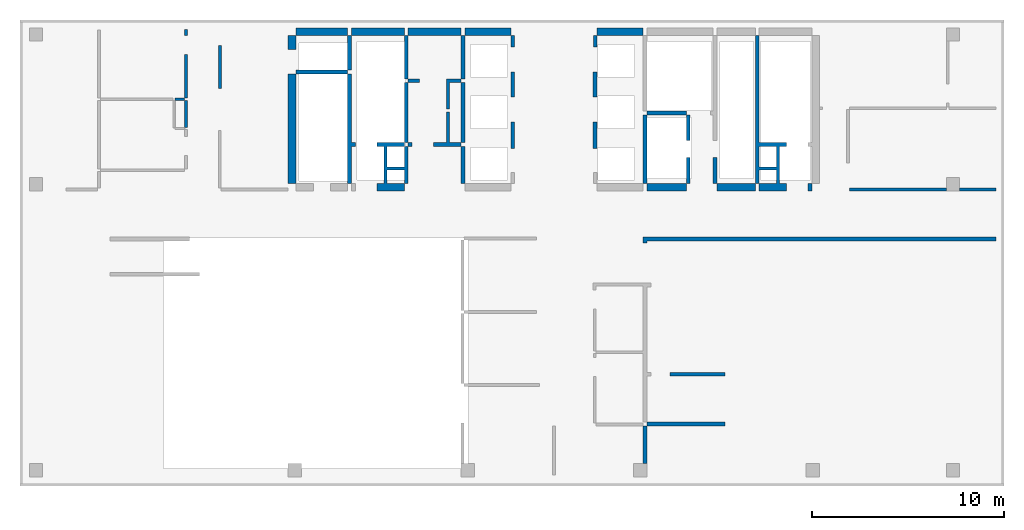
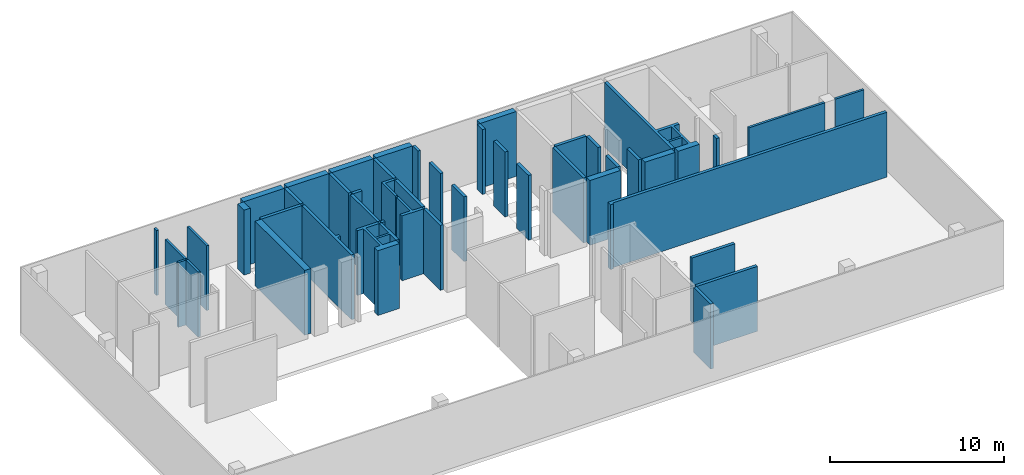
# One storey, part 2 of 4: 46 walls.
"""IFC4 building model written with IfcOpenShell, lengths in millimetres."""

from ifc_helpers import new_model, si_unit, frame, origin, place, context, project, spatial, triangles, element, save


model = new_model("IFC4")

# Units and contexts
model_context = context("Model", 3, precision=0.001, world=origin())
ifc_project = project(units=[si_unit("LENGTHUNIT", "METRE", prefix="MILLI"), si_unit("AREAUNIT", "SQUARE_METRE"), si_unit("VOLUMEUNIT", "CUBIC_METRE")], contexts=[model_context])

# Site, building, storey
site_placement = place(None, origin())
site = spatial("IfcSite", under=ifc_project, at=site_placement, Name="Site", CompositionType="ELEMENT")
building_placement = place(site_placement, origin())
building = spatial("IfcBuilding", under=site, at=building_placement, Name="INNOCEAN", CompositionType="ELEMENT")
storey_placement = place(building_placement, frame((0.0, 0.0, 15800.0)))
storey = spatial("IfcBuildingStorey", under=building, at=storey_placement, Name="F04", CompositionType="ELEMENT", Elevation=15800.0)

# Walls
wall_1_placement = place(storey_placement, origin())
element("IfcWall", 1, at=wall_1_placement, inside=storey, Name="F04_Walls_F04_010", context=model_context, shape_type="Tessellation", body=[
    triangles([(16429.3, 23019.0, 0.0), (16226.2, 23019.0, 0.0), (16226.2, 23019.0, 4550.0), (16429.3, 23019.0, 4550.0), (16429.3, 19449.9, 0.0), (16429.3, 19449.9, 4550.0), (16632.4, 19449.9, 0.0), (16632.4, 19449.9, 4550.0), (16632.4, 19246.7, 0.0), (16632.4, 19246.7, 4550.0), (16429.3, 19246.7, 0.0), (16429.3, 19246.7, 4550.0), (16429.3, 17316.1, 0.0), (16429.3, 17316.1, 4550.0), (16226.2, 17316.1, 0.0), (16226.2, 17316.1, 4550.0), (16226.2, 19246.7, 0.0), (16226.2, 19246.7, 4550.0), (16226.2, 19449.9, 0.0), (16226.2, 19449.9, 4550.0)], [[1, 2, 3], [1, 3, 4], [5, 1, 4], [5, 4, 6], [7, 5, 6], [7, 6, 8], [9, 7, 8], [9, 8, 10], [11, 9, 10], [11, 10, 12], [13, 11, 12], [13, 12, 14], [15, 13, 14], [15, 14, 16], [17, 15, 16], [17, 16, 18], [19, 17, 18], [19, 18, 20], [2, 19, 20], [2, 20, 3], [17, 11, 13], [17, 13, 15], [5, 7, 9], [5, 9, 11], [19, 5, 11], [19, 11, 17], [1, 5, 19], [2, 1, 19], [12, 18, 14], [14, 18, 16], [8, 6, 10], [10, 6, 12], [6, 20, 12], [12, 20, 18], [6, 4, 20], [4, 3, 20]], closed=True),
])
wall_2_placement = place(storey_placement, origin())
element("IfcWall", 2, at=wall_2_placement, inside=storey, Name="F04_Walls_F04_015", context=model_context, shape_type="Tessellation", body=[
    triangles([(13535.2, 17316.1, 0.0), (13535.2, 23019.0, 0.0), (13535.2, 23019.0, 4550.0), (13535.2, 17316.1, 4550.0), (13129.0, 17316.1, 0.0), (13129.0, 17316.1, 4550.0), (13129.0, 23019.0, 0.0), (13129.0, 23019.0, 4550.0)], [[1, 2, 3], [1, 3, 4], [5, 1, 4], [5, 4, 6], [7, 5, 6], [7, 6, 8], [2, 7, 8], [2, 8, 3], [7, 2, 1], [7, 1, 5], [3, 8, 4], [4, 8, 6]], closed=True),
])
wall_3_placement = place(storey_placement, origin())
element("IfcWall", 3, at=wall_3_placement, inside=storey, Name="F04_Walls_F04_018", context=model_context, shape_type="Tessellation", body=[
    triangles([(7886.7, 20224.7, 0.0), (7886.7, 21621.8, 0.0), (7886.7, 21621.8, 4550.0), (7886.7, 20224.7, 4550.0), (7734.4, 20224.7, 0.0), (7734.4, 20224.7, 4550.0), (7734.4, 21621.8, 0.0), (7734.4, 21621.8, 4550.0)], [[1, 2, 3], [1, 3, 4], [5, 1, 4], [5, 4, 6], [7, 5, 6], [7, 6, 8], [2, 7, 8], [2, 8, 3], [7, 2, 1], [7, 1, 5], [3, 8, 4], [4, 8, 6]], closed=True),
])
wall_4_placement = place(storey_placement, origin())
element("IfcWall", 4, at=wall_4_placement, inside=storey, Name="F04_Walls_F04_020", context=model_context, shape_type="Tessellation", body=[
    triangles([(7239.4, 21774.3, 0.0), (7239.4, 21774.3, 4550.0), (7734.4, 21774.3, 4550.0), (7734.4, 21774.3, 0.0), (7734.4, 21621.8, 0.0), (7734.4, 21621.8, 4550.0), (7239.4, 21621.8, 4550.0), (7239.4, 21621.8, 0.0)], [[1, 2, 3], [4, 1, 3], [5, 4, 3], [5, 3, 6], [5, 6, 7], [8, 5, 7], [1, 8, 7], [1, 7, 2], [1, 4, 5], [1, 5, 8], [3, 2, 6], [6, 2, 7]], closed=True),
])
wall_5_placement = place(storey_placement, origin())
element("IfcWall", 5, at=wall_5_placement, inside=storey, Name="F04_Walls_F04_021", context=model_context, shape_type="Tessellation", body=[
    triangles([(7734.4, 21774.3, 0.0), (7886.7, 21774.3, 0.0), (7886.7, 21774.3, 4550.0), (7734.4, 21774.3, 4550.0), (7734.4, 24022.4, 0.0), (7734.4, 24022.4, 4550.0), (7886.7, 24022.4, 0.0), (7886.7, 24022.4, 4550.0)], [[1, 2, 3], [1, 3, 4], [5, 1, 4], [5, 4, 6], [7, 5, 6], [7, 6, 8], [2, 7, 8], [2, 8, 3], [7, 2, 1], [5, 7, 1], [3, 8, 4], [8, 6, 4]], closed=True),
])
wall_6_placement = place(storey_placement, origin())
element("IfcWall", 6, at=wall_6_placement, inside=storey, Name="F04_Walls_F04_022", context=model_context, shape_type="Tessellation", body=[
    triangles([(16226.2, 23019.0, 0.0), (16226.2, 23222.2, 0.0), (16226.2, 23222.2, 4550.0), (16226.2, 23019.0, 4550.0), (13535.2, 23019.0, 0.0), (13535.2, 23019.0, 4550.0), (13535.2, 23222.2, 0.0), (13535.2, 23222.2, 4550.0)], [[1, 2, 3], [1, 3, 4], [5, 1, 4], [5, 4, 6], [7, 5, 6], [7, 6, 8], [2, 7, 8], [2, 8, 3], [7, 2, 1], [7, 1, 5], [3, 8, 4], [4, 8, 6]], closed=True),
])
wall_7_placement = place(storey_placement, origin())
element("IfcWall", 7, at=wall_7_placement, inside=storey, Name="F04_Walls_F04_023", context=model_context, shape_type="Tessellation", body=[
    triangles([(9640.0, 22270.0, 0.0), (9640.0, 24505.0, 0.0), (9640.0, 24505.0, 4550.0), (9640.0, 22270.0, 4550.0), (9638.4, 22270.0, 4550.0), (9638.4, 22270.0, 0.0), (9638.4, 22269.6, 0.0), (9638.4, 22269.6, 4550.0), (9486.1, 22269.6, 0.0), (9486.1, 22269.6, 4550.0), (9486.1, 22270.0, 0.0), (9486.1, 22270.0, 4550.0), (9485.0, 22270.0, 0.0), (9485.0, 22270.0, 4550.0), (9485.0, 24505.0, 0.0), (9485.0, 24505.0, 4550.0), (9486.1, 24505.0, 0.0), (9486.1, 24505.0, 4550.0), (9638.4, 24505.0, 0.0), (9638.4, 24505.0, 4550.0)], [[1, 2, 3], [1, 3, 4], [1, 4, 5], [6, 1, 5], [7, 6, 5], [7, 5, 8], [9, 7, 8], [9, 8, 10], [11, 9, 10], [11, 10, 12], [13, 11, 12], [13, 12, 14], [15, 13, 14], [15, 14, 16], [17, 15, 16], [17, 16, 18], [19, 17, 18], [19, 18, 20], [19, 20, 3], [2, 19, 3], [11, 6, 7], [11, 7, 9], [2, 1, 6], [19, 2, 6], [19, 6, 11], [17, 11, 13], [17, 19, 11], [15, 17, 13], [5, 12, 8], [8, 12, 10], [4, 3, 5], [3, 20, 5], [5, 20, 12], [12, 18, 14], [20, 18, 12], [18, 16, 14]], closed=True),
])
wall_8_placement = place(storey_placement, origin())
element("IfcWall", 8, at=wall_8_placement, inside=storey, Name="F04_Walls_F04_025", context=model_context, shape_type="Tessellation", body=[
    triangles([(16429.3, 23222.2, 0.0), (16429.3, 25025.8, 0.0), (16429.3, 25025.8, 4550.0), (16429.3, 23222.2, 4550.0), (16226.2, 23222.2, 0.0), (16226.2, 23222.2, 4550.0), (16226.2, 25025.8, 0.0), (16226.2, 25025.8, 4550.0)], [[1, 2, 3], [1, 3, 4], [5, 1, 4], [5, 4, 6], [7, 5, 6], [7, 6, 8], [2, 7, 8], [2, 8, 3], [7, 2, 1], [7, 1, 5], [3, 8, 4], [4, 8, 6]], closed=True),
])
wall_9_placement = place(storey_placement, origin())
element("IfcWall", 9, at=wall_9_placement, inside=storey, Name="F04_Walls_F04_026", context=model_context, shape_type="Tessellation", body=[
    triangles([(13535.2, 24276.4, 0.0), (13535.2, 25025.8, 0.0), (13535.2, 25025.8, 4550.0), (13535.2, 24276.4, 4550.0), (13129.0, 24276.4, 0.0), (13129.0, 24276.4, 4550.0), (13129.0, 25025.8, 0.0), (13129.0, 25025.8, 4550.0)], [[1, 2, 3], [1, 3, 4], [5, 1, 4], [5, 4, 6], [7, 5, 6], [7, 6, 8], [2, 7, 8], [2, 8, 3], [2, 1, 5], [7, 2, 5], [4, 3, 6], [3, 8, 6]], closed=True),
])
wall_10_placement = place(storey_placement, origin())
element("IfcWall", 10, at=wall_10_placement, inside=storey, Name="F04_Walls_F04_027", context=model_context, shape_type="Tessellation", body=[
    triangles([(7734.4, 25317.9, 0.0), (7734.4, 25025.8, 0.0), (7734.4, 25025.8, 4550.0), (7734.4, 25317.9, 4550.0), (7735.0, 25317.9, 0.0), (7735.0, 25317.9, 4550.0), (7735.0, 25320.0, 0.0), (7735.0, 25320.0, 4550.0), (7885.0, 25320.0, 0.0), (7885.0, 25320.0, 4550.0), (7885.0, 25317.9, 0.0), (7885.0, 25317.9, 4550.0), (7886.7, 25317.9, 0.0), (7886.7, 25317.9, 4550.0), (7886.7, 25025.8, 0.0), (7886.7, 25025.8, 4550.0), (7885.0, 25025.8, 0.0), (7885.0, 25025.8, 4550.0), (7885.0, 25025.0, 0.0), (7885.0, 25025.0, 4550.0), (7735.0, 25025.0, 0.0), (7735.0, 25025.0, 4550.0), (7735.0, 25025.8, 0.0), (7735.0, 25025.8, 4550.0)], [[1, 2, 3], [1, 3, 4], [5, 1, 4], [5, 4, 6], [7, 5, 6], [7, 6, 8], [9, 7, 8], [9, 8, 10], [11, 9, 10], [11, 10, 12], [13, 11, 12], [13, 12, 14], [15, 13, 14], [15, 14, 16], [17, 15, 16], [17, 16, 18], [19, 17, 18], [19, 18, 20], [21, 19, 20], [21, 20, 22], [23, 21, 22], [23, 22, 24], [2, 23, 24], [2, 24, 3], [23, 17, 19], [23, 19, 21], [11, 13, 15], [11, 15, 17], [11, 17, 23], [5, 23, 2], [5, 11, 23], [1, 5, 2], [7, 9, 11], [7, 11, 5], [18, 24, 20], [20, 24, 22], [14, 12, 16], [16, 12, 18], [18, 12, 24], [24, 6, 3], [12, 6, 24], [6, 4, 3], [10, 8, 12], [12, 8, 6]], closed=True),
])
wall_11_placement = place(storey_placement, origin())
element("IfcWall", 11, at=wall_11_placement, inside=storey, Name="F04_Walls_F04_028", context=model_context, shape_type="Tessellation", body=[
    triangles([(13535.2, 25025.8, 0.0), (16226.2, 25025.8, 0.0), (16226.2, 25025.8, 4550.0), (13535.2, 25025.8, 4550.0), (13535.2, 25419.5, 0.0), (13535.2, 25419.5, 4550.0), (16226.2, 25419.5, 0.0), (16226.2, 25419.5, 4550.0)], [[1, 2, 3], [1, 3, 4], [5, 1, 4], [5, 4, 6], [7, 5, 6], [7, 6, 8], [2, 7, 8], [2, 8, 3], [1, 7, 2], [5, 7, 1], [8, 4, 3], [8, 6, 4]], closed=True),
])
wall_12_placement = place(storey_placement, origin())
element("IfcWall", 12, at=wall_12_placement, inside=storey, Name="F04_Walls_F04_029", context=model_context, shape_type="Tessellation", body=[
    triangles([(19183.7, 25025.8, 0.0), (19183.7, 25419.5, 0.0), (19183.7, 25419.5, 4550.0), (19183.7, 25025.8, 4550.0), (16429.3, 25025.8, 0.0), (16429.3, 25025.8, 4550.0), (16429.3, 25419.5, 0.0), (16429.3, 25419.5, 4550.0)], [[1, 2, 3], [1, 3, 4], [5, 1, 4], [5, 4, 6], [7, 5, 6], [7, 6, 8], [2, 7, 8], [2, 8, 3], [7, 2, 1], [7, 1, 5], [3, 8, 4], [4, 8, 6]], closed=True),
])
wall_13_placement = place(storey_placement, origin())
element("IfcWall", 13, at=wall_13_placement, inside=storey, Name="F04_Walls_F04_036", context=model_context, shape_type="Tessellation", body=[
    triangles([(17749.4, 17316.1, 0.0), (17749.4, 16922.4, 0.0), (17749.4, 16922.4, 4550.0), (17749.4, 17316.1, 4550.0), (19183.7, 16922.4, 0.0), (19183.7, 16922.4, 4550.0), (19183.7, 17316.1, 0.0), (19183.7, 17316.1, 4550.0), (19374.1, 17316.1, 0.0), (19374.1, 17316.1, 4550.0), (19374.1, 19246.7, 0.0), (19374.1, 19246.7, 4550.0), (19183.7, 19246.7, 0.0), (19183.7, 19246.7, 4550.0), (19183.7, 19449.9, 0.0), (19183.7, 19449.9, 4550.0), (17749.4, 19449.9, 0.0), (17749.4, 19449.9, 4550.0), (17749.4, 19246.7, 0.0), (17749.4, 19246.7, 4550.0), (18130.2, 19246.7, 0.0), (18130.2, 19246.7, 4550.0), (18130.2, 19245.0, 0.0), (18130.2, 19245.0, 4550.0), (18130.0, 19245.0, 0.0), (18130.0, 19245.0, 4550.0), (18130.0, 17316.1, 0.0), (18130.0, 17316.1, 4550.0), (18282.5, 17316.1, 0.0), (18282.5, 17316.1, 4550.0), (18282.5, 18014.7, 0.0), (18282.5, 18014.7, 4550.0), (19183.7, 18014.7, 0.0), (19183.7, 18014.7, 4550.0), (19183.7, 18167.1, 0.0), (19183.7, 18167.1, 4550.0), (18282.5, 18167.1, 0.0), (18282.5, 18167.1, 4550.0), (18282.5, 19246.7, 0.0), (18282.5, 19246.7, 4550.0)], [[1, 2, 3], [1, 3, 4], [2, 5, 6], [2, 6, 3], [5, 7, 8], [5, 8, 6], [9, 10, 8], [7, 9, 8], [9, 11, 12], [9, 12, 10], [13, 14, 12], [11, 13, 12], [13, 15, 16], [13, 16, 14], [15, 17, 18], [15, 18, 16], [17, 19, 20], [17, 20, 18], [19, 21, 22], [19, 22, 20], [21, 23, 24], [21, 24, 22], [23, 25, 26], [23, 26, 24], [25, 27, 28], [25, 28, 26], [27, 1, 4], [27, 4, 28], [7, 29, 30], [7, 30, 8], [29, 31, 32], [29, 32, 30], [31, 33, 34], [31, 34, 32], [33, 7, 8], [33, 8, 34], [13, 35, 36], [13, 36, 14], [35, 37, 38], [35, 38, 36], [37, 39, 40], [37, 40, 38], [39, 13, 14], [39, 14, 40], [33, 9, 7], [35, 9, 33], [29, 7, 5], [2, 29, 5], [27, 29, 2], [1, 27, 2], [31, 35, 33], [31, 29, 27], [11, 9, 35], [37, 35, 31], [13, 11, 35], [39, 15, 13], [23, 39, 37], [25, 23, 37], [21, 39, 23], [17, 21, 19], [17, 15, 39], [17, 39, 21], [27, 25, 37], [27, 37, 31], [10, 34, 8], [10, 36, 34], [8, 30, 6], [30, 3, 6], [30, 28, 3], [28, 4, 3], [36, 32, 34], [30, 32, 28], [10, 12, 36], [36, 38, 32], [12, 14, 36], [16, 40, 14], [40, 24, 38], [24, 26, 38], [40, 22, 24], [22, 18, 20], [16, 18, 40], [40, 18, 22], [26, 28, 38], [38, 28, 32]], closed=True),
])
wall_14_placement = place(storey_placement, origin())
element("IfcWall", 14, at=wall_14_placement, inside=storey, Name="F04_Walls_F04_039", context=model_context, shape_type="Tessellation", body=[
    triangles([(22331.6, 17316.1, 0.0), (22331.6, 19246.7, 0.0), (22331.6, 19246.7, 4550.0), (22331.6, 17316.1, 4550.0), (22128.5, 17316.1, 0.0), (22128.5, 17316.1, 4550.0), (22128.5, 19246.7, 0.0), (22128.5, 19246.7, 4550.0)], [[1, 2, 3], [1, 3, 4], [5, 1, 4], [5, 4, 6], [7, 5, 6], [7, 6, 8], [2, 7, 8], [2, 8, 3], [7, 2, 1], [7, 1, 5], [3, 8, 4], [4, 8, 6]], closed=True),
])
wall_15_placement = place(storey_placement, origin())
element("IfcWall", 15, at=wall_15_placement, inside=storey, Name="F04_Walls_F04_040", context=model_context, shape_type="Tessellation", body=[
    triangles([(19577.2, 19246.7, 0.0), (19577.2, 19449.9, 0.0), (19577.2, 19449.9, 4550.0), (19577.2, 19246.7, 4550.0), (19374.1, 19246.7, 0.0), (19374.1, 19246.7, 4550.0), (19374.1, 19449.9, 0.0), (19374.1, 19449.9, 4550.0)], [[1, 2, 3], [1, 3, 4], [5, 1, 4], [5, 4, 6], [7, 5, 6], [7, 6, 8], [2, 7, 8], [2, 8, 3], [7, 2, 1], [7, 1, 5], [3, 8, 4], [4, 8, 6]], closed=True),
])
wall_16_placement = place(storey_placement, origin())
element("IfcWall", 16, at=wall_16_placement, inside=storey, Name="F04_Walls_F04_041", context=model_context, shape_type="Tessellation", body=[
    triangles([(22128.5, 19246.7, 0.0), (22128.5, 19449.9, 0.0), (22128.5, 19449.9, 4550.0), (22128.5, 19246.7, 4550.0), (20694.2, 19246.7, 0.0), (20694.2, 19246.7, 4550.0), (20694.2, 19449.9, 0.0), (20694.2, 19449.9, 4550.0), (21366.9, 19449.9, 0.0), (21366.9, 19449.9, 4550.0), (21366.9, 21024.9, 0.0), (21366.9, 21024.9, 4550.0), (21519.3, 21024.9, 0.0), (21519.3, 21024.9, 4550.0), (21519.3, 19449.9, 0.0), (21519.3, 19449.9, 4550.0)], [[1, 2, 3], [1, 3, 4], [5, 1, 4], [5, 4, 6], [7, 5, 6], [7, 6, 8], [9, 7, 8], [9, 8, 10], [11, 9, 10], [11, 10, 12], [13, 11, 12], [13, 12, 14], [15, 13, 14], [15, 14, 16], [2, 15, 16], [2, 16, 3], [15, 2, 1], [9, 15, 1], [5, 9, 1], [7, 9, 5], [11, 13, 15], [11, 15, 9], [3, 16, 4], [16, 10, 4], [10, 6, 4], [10, 8, 6], [14, 12, 16], [16, 12, 10]], closed=True),
])
wall_17_placement = place(storey_placement, origin())
element("IfcWall", 17, at=wall_17_placement, inside=storey, Name="F04_Walls_F04_042", context=model_context, shape_type="Tessellation", body=[
    triangles([(24730.0, 19120.0, 0.0), (24730.0, 19120.0, 4550.0), (24730.0, 20515.0, 4550.0), (24730.0, 20515.0, 0.0), (24730.6, 20515.0, 0.0), (24730.6, 20515.0, 4550.0), (24730.6, 20516.8, 0.0), (24730.6, 20516.8, 4550.0), (24921.0, 20516.8, 4550.0), (24921.0, 20516.8, 0.0), (24921.0, 19119.7, 0.0), (24921.0, 19119.7, 4550.0), (24730.6, 19119.7, 4550.0), (24730.6, 19119.7, 0.0), (24730.6, 19120.0, 0.0), (24730.6, 19120.0, 4550.0)], [[1, 2, 3], [4, 1, 3], [5, 4, 3], [5, 3, 6], [7, 5, 6], [7, 6, 8], [7, 8, 9], [10, 7, 9], [11, 10, 9], [11, 9, 12], [11, 12, 13], [14, 11, 13], [15, 14, 13], [15, 13, 16], [1, 15, 16], [1, 16, 2], [15, 11, 14], [5, 10, 11], [5, 11, 15], [4, 15, 1], [4, 5, 15], [7, 10, 5], [12, 16, 13], [9, 6, 12], [12, 6, 16], [16, 3, 2], [6, 3, 16], [9, 8, 6]], closed=True),
])
wall_18_placement = place(storey_placement, origin())
element("IfcWall", 18, at=wall_18_placement, inside=storey, Name="F04_Walls_F04_043", context=model_context, shape_type="Tessellation", body=[
    triangles([(19374.1, 19449.9, 0.0), (19374.1, 22574.4, 0.0), (19374.1, 22574.4, 4550.0), (19374.1, 19449.9, 4550.0), (19183.7, 19449.9, 4550.0), (19183.7, 19449.9, 0.0), (19183.7, 22574.4, 0.0), (19183.7, 22574.4, 4550.0)], [[1, 2, 3], [1, 3, 4], [1, 4, 5], [6, 1, 5], [7, 6, 5], [7, 5, 8], [7, 8, 3], [2, 7, 3], [2, 1, 6], [7, 2, 6], [4, 3, 5], [3, 8, 5]], closed=True),
])
wall_19_placement = place(storey_placement, origin())
element("IfcWall", 19, at=wall_19_placement, inside=storey, Name="F04_Walls_F04_044", context=model_context, shape_type="Tessellation", body=[
    triangles([(22331.6, 19449.9, 0.0), (22331.6, 22574.4, 0.0), (22331.6, 22574.4, 4550.0), (22331.6, 19449.9, 4550.0), (22128.5, 19449.9, 0.0), (22128.5, 19449.9, 4550.0), (22128.5, 22574.4, 0.0), (22128.5, 22574.4, 4550.0)], [[1, 2, 3], [1, 3, 4], [5, 1, 4], [5, 4, 6], [7, 5, 6], [7, 6, 8], [2, 7, 8], [2, 8, 3], [2, 1, 5], [7, 2, 5], [4, 3, 6], [3, 8, 6]], closed=True),
])
wall_20_placement = place(storey_placement, origin())
element("IfcWall", 20, at=wall_20_placement, inside=storey, Name="F04_Walls_F04_045", context=model_context, shape_type="Tessellation", body=[
    triangles([(22128.5, 22574.4, 0.0), (22128.5, 22765.0, 0.0), (22128.5, 22765.0, 4550.0), (22128.5, 22574.4, 4550.0), (21519.3, 22574.4, 0.0), (21519.3, 22574.4, 4550.0), (21519.3, 21177.3, 4550.0), (21519.3, 21177.3, 0.0), (21366.9, 21177.3, 0.0), (21366.9, 21177.3, 4550.0), (21366.9, 22574.4, 4550.0), (21366.9, 22574.4, 0.0), (21366.9, 22765.0, 0.0), (21366.9, 22765.0, 4550.0)], [[1, 2, 3], [1, 3, 4], [5, 1, 4], [5, 4, 6], [5, 6, 7], [8, 5, 7], [9, 8, 7], [9, 7, 10], [9, 10, 11], [12, 9, 11], [13, 12, 11], [13, 11, 14], [2, 13, 14], [2, 14, 3], [5, 2, 1], [12, 5, 8], [12, 8, 9], [13, 2, 5], [13, 5, 12], [3, 6, 4], [6, 11, 7], [7, 11, 10], [3, 14, 6], [6, 14, 11]], closed=True),
])
wall_21_placement = place(storey_placement, origin())
element("IfcWall", 21, at=wall_21_placement, inside=storey, Name="F04_Walls_F04_046", context=model_context, shape_type="Tessellation", body=[
    triangles([(24920.0, 21825.0, 0.0), (24920.0, 21825.1, 0.0), (24920.0, 21825.1, 4550.0), (24920.0, 21825.0, 4550.0), (24730.0, 21825.0, 0.0), (24730.0, 21825.0, 4550.0), (24730.0, 23120.0, 0.0), (24730.0, 23120.0, 4550.0), (24730.6, 23120.0, 0.0), (24730.6, 23120.0, 4550.0), (24730.6, 23120.6, 0.0), (24730.6, 23120.6, 4550.0), (24921.0, 23120.6, 4550.0), (24921.0, 23120.6, 0.0), (24921.0, 21825.1, 0.0), (24921.0, 21825.1, 4550.0)], [[1, 2, 3], [1, 3, 4], [5, 1, 4], [5, 4, 6], [7, 5, 6], [7, 6, 8], [9, 7, 8], [9, 8, 10], [11, 9, 10], [11, 10, 12], [11, 12, 13], [14, 11, 13], [15, 14, 13], [15, 13, 16], [2, 15, 16], [2, 16, 3], [5, 2, 1], [14, 15, 2], [9, 14, 2], [9, 2, 5], [7, 9, 5], [11, 14, 9], [3, 6, 4], [16, 13, 3], [13, 10, 3], [3, 10, 6], [10, 8, 6], [13, 12, 10]], closed=True),
])
wall_22_placement = place(storey_placement, origin())
element("IfcWall", 22, at=wall_22_placement, inside=storey, Name="F04_Walls_F04_047", context=model_context, shape_type="Tessellation", body=[
    triangles([(19970.7, 22574.4, 0.0), (19970.7, 22765.0, 0.0), (19970.7, 22765.0, 4550.0), (19970.7, 22574.4, 4550.0), (19374.1, 22574.4, 0.0), (19374.1, 22574.4, 4550.0), (19374.1, 22765.0, 0.0), (19374.1, 22765.0, 4550.0)], [[1, 2, 3], [1, 3, 4], [5, 1, 4], [5, 4, 6], [7, 5, 6], [7, 6, 8], [2, 7, 8], [2, 8, 3], [7, 2, 1], [7, 1, 5], [3, 8, 4], [4, 8, 6]], closed=True),
])
wall_23_placement = place(storey_placement, origin())
element("IfcWall", 23, at=wall_23_placement, inside=storey, Name="F04_Walls_F04_048", context=model_context, shape_type="Tessellation", body=[
    triangles([(19374.1, 22765.0, 0.0), (19374.1, 25025.8, 0.0), (19374.1, 25025.8, 4550.0), (19374.1, 22765.0, 4550.0), (19183.7, 22765.0, 4550.0), (19183.7, 22765.0, 0.0), (19183.7, 25025.8, 0.0), (19183.7, 25025.8, 4550.0)], [[1, 2, 3], [1, 3, 4], [1, 4, 5], [6, 1, 5], [7, 6, 5], [7, 5, 8], [7, 8, 3], [2, 7, 3], [7, 2, 1], [7, 1, 6], [3, 8, 4], [4, 8, 5]], closed=True),
])
wall_24_placement = place(storey_placement, origin())
element("IfcWall", 24, at=wall_24_placement, inside=storey, Name="F04_Walls_F04_049", context=model_context, shape_type="Tessellation", body=[
    triangles([(22128.5, 22765.0, 0.0), (22331.6, 22765.0, 0.0), (22331.6, 22765.0, 4550.0), (22128.5, 22765.0, 4550.0), (22128.5, 25025.8, 0.0), (22128.5, 25025.8, 4550.0), (22331.6, 25025.8, 0.0), (22331.6, 25025.8, 4550.0)], [[1, 2, 3], [1, 3, 4], [5, 1, 4], [5, 4, 6], [7, 5, 6], [7, 6, 8], [2, 7, 8], [2, 8, 3], [5, 2, 1], [5, 7, 2], [3, 6, 4], [8, 6, 3]], closed=True),
])
wall_25_placement = place(storey_placement, origin())
element("IfcWall", 25, at=wall_25_placement, inside=storey, Name="F04_Walls_F04_050", context=model_context, shape_type="Tessellation", body=[
    triangles([(24921.0, 24416.1, 0.0), (24921.0, 24416.1, 4550.0), (24730.6, 24416.1, 4550.0), (24730.6, 24416.1, 0.0), (24730.6, 25025.8, 0.0), (24730.6, 25025.8, 4550.0), (24921.0, 25025.8, 4550.0), (24921.0, 25025.8, 0.0)], [[1, 2, 3], [4, 1, 3], [5, 4, 3], [5, 3, 6], [5, 6, 7], [8, 5, 7], [1, 8, 7], [1, 7, 2], [5, 1, 4], [5, 8, 1], [2, 6, 3], [7, 6, 2]], closed=True),
])
wall_26_placement = place(storey_placement, origin())
element("IfcWall", 26, at=wall_26_placement, inside=storey, Name="F04_Walls_F04_051", context=model_context, shape_type="Tessellation", body=[
    triangles([(24730.6, 25025.8, 0.0), (24730.6, 25419.5, 0.0), (24730.6, 25419.5, 4550.0), (24730.6, 25025.8, 4550.0), (22331.6, 25025.8, 4550.0), (22331.6, 25025.8, 0.0), (22331.6, 25419.5, 0.0), (22331.6, 25419.5, 4550.0)], [[1, 2, 3], [1, 3, 4], [1, 4, 5], [6, 1, 5], [7, 6, 5], [7, 5, 8], [7, 8, 3], [2, 7, 3], [7, 2, 1], [7, 1, 6], [3, 8, 4], [4, 8, 5]], closed=True),
])
wall_27_placement = place(storey_placement, origin())
element("IfcWall", 27, at=wall_27_placement, inside=storey, Name="F04_Walls_F04_052", context=model_context, shape_type="Tessellation", body=[
    triangles([(22128.5, 25025.8, 0.0), (22128.5, 25419.5, 0.0), (22128.5, 25419.5, 4550.0), (22128.5, 25025.8, 4550.0), (19374.1, 25025.8, 0.0), (19374.1, 25025.8, 4550.0), (19374.1, 25419.5, 0.0), (19374.1, 25419.5, 4550.0)], [[1, 2, 3], [1, 3, 4], [5, 1, 4], [5, 4, 6], [7, 5, 6], [7, 6, 8], [2, 7, 8], [2, 8, 3], [7, 2, 1], [7, 1, 5], [3, 8, 4], [4, 8, 6]], closed=True),
])
wall_28_placement = place(storey_placement, origin())
element("IfcWall", 28, at=wall_28_placement, inside=storey, Name="F04_Walls_F04_054", context=model_context, shape_type="Tessellation", body=[
    triangles([(31826.2, 2722.3, 0.0), (31826.2, 4665.6, 0.0), (31826.2, 4665.6, 4550.0), (31826.2, 2722.3, 4550.0), (31623.1, 2722.3, 0.0), (31623.1, 2722.3, 4550.0), (31623.1, 4665.6, 0.0), (31623.1, 4665.6, 4550.0)], [[1, 2, 3], [1, 3, 4], [5, 1, 4], [5, 4, 6], [7, 5, 6], [7, 6, 8], [2, 7, 8], [2, 8, 3], [7, 2, 1], [7, 1, 5], [3, 8, 4], [4, 8, 6]], closed=True),
])
wall_29_placement = place(storey_placement, origin())
element("IfcWall", 29, at=wall_29_placement, inside=storey, Name="F04_Walls_F04_056", context=model_context, shape_type="Tessellation", body=[
    triangles([(35875.3, 4665.6, 0.0), (35875.3, 4868.8, 0.0), (35875.3, 4868.8, 4550.0), (35875.3, 4665.6, 4550.0), (31826.2, 4665.6, 4550.0), (31826.2, 4665.6, 0.0), (31826.2, 4868.8, 0.0), (31826.2, 4868.8, 4550.0)], [[1, 2, 3], [1, 3, 4], [1, 4, 5], [6, 1, 5], [7, 6, 5], [7, 5, 8], [7, 8, 3], [2, 7, 3], [7, 2, 1], [7, 1, 6], [3, 8, 4], [4, 8, 5]], closed=True),
])
wall_30_placement = place(storey_placement, origin())
element("IfcWall", 30, at=wall_30_placement, inside=storey, Name="F04_Walls_F04_059", context=model_context, shape_type="Tessellation", body=[
    triangles([(35875.3, 7269.4, 0.0), (35875.3, 7472.6, 0.0), (35875.3, 7472.6, 4550.0), (35875.3, 7269.4, 4550.0), (33019.3, 7269.4, 0.0), (33019.3, 7269.4, 4550.0), (33019.3, 7472.6, 0.0), (33019.3, 7472.6, 4550.0)], [[1, 2, 3], [1, 3, 4], [5, 1, 4], [5, 4, 6], [7, 5, 6], [7, 6, 8], [2, 7, 8], [2, 8, 3], [7, 2, 1], [7, 1, 5], [3, 8, 4], [4, 8, 6]], closed=True),
])
wall_31_placement = place(storey_placement, origin())
element("IfcWall", 31, at=wall_31_placement, inside=storey, Name="F04_Walls_F04_062", context=model_context, shape_type="Tessellation", body=[
    triangles([(50015.5, 14521.8, 0.0), (31826.2, 14521.8, 0.0), (31826.2, 14521.8, 4550.0), (50015.5, 14521.8, 4550.0), (50015.5, 14318.6, 0.0), (50015.5, 14318.6, 4550.0), (31826.2, 14318.6, 0.0), (31826.2, 14318.6, 4550.0), (31826.2, 14217.0, 4550.0), (31826.2, 14217.0, 0.0), (31623.1, 14217.0, 0.0), (31623.1, 14217.0, 4550.0), (31623.1, 14521.8, 0.0), (31623.1, 14521.8, 4550.0)], [[1, 2, 3], [1, 3, 4], [5, 1, 4], [5, 4, 6], [7, 5, 6], [7, 6, 8], [7, 8, 9], [10, 7, 9], [11, 10, 9], [11, 9, 12], [13, 11, 12], [13, 12, 14], [2, 13, 14], [2, 14, 3], [7, 1, 5], [11, 7, 10], [2, 1, 7], [13, 7, 11], [13, 2, 7], [4, 8, 6], [8, 12, 9], [4, 3, 8], [8, 14, 12], [3, 14, 8]], closed=True),
])
wall_32_placement = place(storey_placement, origin())
element("IfcWall", 32, at=wall_32_placement, inside=storey, Name="F04_Walls_F04_064", context=model_context, shape_type="Tessellation", body=[
    triangles([(33869.8, 16922.4, 0.0), (33869.8, 17316.1, 0.0), (33869.8, 17316.1, 4550.0), (33869.8, 16922.4, 4550.0), (31826.2, 16922.4, 0.0), (31826.2, 16922.4, 4550.0), (31826.2, 17316.1, 0.0), (31826.2, 17316.1, 4550.0)], [[1, 2, 3], [1, 3, 4], [5, 1, 4], [5, 4, 6], [7, 5, 6], [7, 6, 8], [2, 7, 8], [2, 8, 3], [7, 2, 1], [7, 1, 5], [3, 8, 4], [4, 8, 6]], closed=True),
])
wall_33_placement = place(storey_placement, origin())
element("IfcWall", 33, at=wall_33_placement, inside=storey, Name="F04_Walls_F04_066", context=model_context, shape_type="Tessellation", body=[
    triangles([(34072.9, 17316.1, 0.0), (34072.9, 18649.7, 0.0), (34072.9, 18649.7, 4550.0), (34072.9, 17316.1, 4550.0), (33869.8, 17316.1, 0.0), (33869.8, 17316.1, 4550.0), (33869.8, 18649.7, 0.0), (33869.8, 18649.7, 4550.0)], [[1, 2, 3], [1, 3, 4], [5, 1, 4], [5, 4, 6], [7, 5, 6], [7, 6, 8], [2, 7, 8], [2, 8, 3], [7, 2, 1], [7, 1, 5], [3, 8, 4], [4, 8, 6]], closed=True),
])
wall_34_placement = place(storey_placement, origin())
element("IfcWall", 34, at=wall_34_placement, inside=storey, Name="F04_Walls_F04_067", context=model_context, shape_type="Tessellation", body=[
    triangles([(31826.2, 20872.5, 0.0), (31826.2, 20872.5, 4550.0), (31826.2, 17316.1, 4550.0), (31826.2, 17316.1, 0.0), (31623.1, 17316.1, 0.0), (31623.1, 17316.1, 4550.0), (31623.1, 20872.5, 4550.0), (31623.1, 20872.5, 0.0)], [[1, 2, 3], [4, 1, 3], [5, 4, 3], [5, 3, 6], [5, 6, 7], [8, 5, 7], [1, 8, 7], [1, 7, 2], [8, 1, 4], [8, 4, 5], [2, 7, 3], [3, 7, 6]], closed=True),
])
wall_35_placement = place(storey_placement, origin())
element("IfcWall", 35, at=wall_35_placement, inside=storey, Name="F04_Walls_F04_068", context=model_context, shape_type="Tessellation", body=[
    triangles([(29224.0, 19119.7, 0.0), (29224.0, 19120.0, 0.0), (29224.0, 19120.0, 4550.0), (29224.0, 19119.7, 4550.0), (29020.9, 19119.7, 0.0), (29020.9, 19119.7, 4550.0), (29020.9, 19120.0, 0.0), (29020.9, 19120.0, 4550.0), (29020.0, 19120.0, 4550.0), (29020.0, 19120.0, 0.0), (29020.0, 20515.0, 4550.0), (29020.0, 20515.0, 0.0), (29020.9, 20515.0, 4550.0), (29020.9, 20515.0, 0.0), (29020.9, 20516.8, 0.0), (29020.9, 20516.8, 4550.0), (29224.0, 20516.8, 0.0), (29224.0, 20516.8, 4550.0), (29224.0, 20515.0, 0.0), (29224.0, 20515.0, 4550.0), (29225.0, 20515.0, 0.0), (29225.0, 20515.0, 4550.0), (29225.0, 19120.0, 4550.0), (29225.0, 19120.0, 0.0)], [[1, 2, 3], [1, 3, 4], [5, 1, 4], [5, 4, 6], [7, 5, 6], [7, 6, 8], [7, 8, 9], [10, 7, 9], [10, 9, 11], [12, 10, 11], [12, 11, 13], [14, 12, 13], [15, 14, 13], [15, 13, 16], [17, 15, 16], [17, 16, 18], [19, 17, 18], [19, 18, 20], [21, 19, 20], [21, 20, 22], [21, 22, 23], [24, 21, 23], [2, 24, 23], [2, 23, 3], [7, 2, 1], [7, 1, 5], [19, 21, 24], [19, 24, 2], [19, 2, 7], [14, 19, 7], [12, 7, 10], [12, 14, 7], [15, 17, 19], [15, 19, 14], [3, 8, 4], [4, 8, 6], [22, 20, 23], [23, 20, 3], [3, 20, 8], [20, 13, 8], [8, 11, 9], [13, 11, 8], [18, 16, 20], [20, 16, 13]], closed=True),
])
wall_36_placement = place(storey_placement, origin())
element("IfcWall", 36, at=wall_36_placement, inside=storey, Name="F04_Walls_F04_069", context=model_context, shape_type="Tessellation", body=[
    triangles([(33869.8, 20872.5, 0.0), (33869.8, 19551.5, 0.0), (33869.8, 19551.5, 4550.0), (33869.8, 20872.5, 4550.0), (34072.9, 20872.5, 0.0), (34072.9, 20872.5, 4550.0), (34072.9, 19551.5, 0.0), (34072.9, 19551.5, 4550.0)], [[1, 2, 3], [1, 3, 4], [5, 1, 4], [5, 4, 6], [7, 5, 6], [7, 6, 8], [2, 7, 8], [2, 8, 3], [1, 5, 7], [1, 7, 2], [6, 4, 8], [8, 4, 3]], closed=True),
])
wall_37_placement = place(storey_placement, origin())
element("IfcWall", 37, at=wall_37_placement, inside=storey, Name="F04_Walls_F04_070", context=model_context, shape_type="Tessellation", body=[
    triangles([(33869.8, 20872.5, 0.0), (33869.8, 21075.7, 0.0), (33869.8, 21075.7, 4550.0), (33869.8, 20872.5, 4550.0), (31826.2, 20872.5, 0.0), (31826.2, 20872.5, 4550.0), (31826.2, 21075.7, 0.0), (31826.2, 21075.7, 4550.0)], [[1, 2, 3], [1, 3, 4], [5, 1, 4], [5, 4, 6], [7, 5, 6], [7, 6, 8], [2, 7, 8], [2, 8, 3], [7, 2, 1], [7, 1, 5], [3, 8, 4], [4, 8, 6]], closed=True),
])
wall_38_placement = place(storey_placement, origin())
element("IfcWall", 38, at=wall_38_placement, inside=storey, Name="F04_Walls_F04_072", context=model_context, shape_type="Tessellation", body=[
    triangles([(29225.0, 21825.0, 0.0), (29225.0, 23120.0, 0.0), (29225.0, 23120.0, 4550.0), (29225.0, 21825.0, 4550.0), (29020.0, 21825.0, 0.0), (29020.0, 21825.0, 4550.0), (29020.0, 23120.0, 0.0), (29020.0, 23120.0, 4550.0), (29020.9, 23120.0, 4550.0), (29020.9, 23120.0, 0.0), (29020.9, 23120.6, 0.0), (29020.9, 23120.6, 4550.0), (29224.0, 23120.6, 0.0), (29224.0, 23120.6, 4550.0), (29224.0, 23120.0, 0.0), (29224.0, 23120.0, 4550.0)], [[1, 2, 3], [1, 3, 4], [5, 1, 4], [5, 4, 6], [7, 5, 6], [7, 6, 8], [7, 8, 9], [10, 7, 9], [11, 10, 9], [11, 9, 12], [13, 11, 12], [13, 12, 14], [15, 13, 14], [15, 14, 16], [2, 15, 16], [2, 16, 3], [15, 2, 1], [15, 1, 5], [10, 15, 5], [11, 13, 15], [11, 15, 10], [7, 10, 5], [3, 16, 4], [4, 16, 6], [16, 9, 6], [14, 12, 16], [16, 12, 9], [9, 8, 6]], closed=True),
])
wall_39_placement = place(storey_placement, origin())
element("IfcWall", 39, at=wall_39_placement, inside=storey, Name="F04_Walls_F04_074", context=model_context, shape_type="Tessellation", body=[
    triangles([(29224.0, 25025.8, 0.0), (29020.9, 25025.8, 0.0), (29020.9, 25025.8, 4550.0), (29224.0, 25025.8, 4550.0), (29224.0, 24416.1, 0.0), (29224.0, 24416.1, 4550.0), (29020.9, 24416.1, 0.0), (29020.9, 24416.1, 4550.0)], [[1, 2, 3], [1, 3, 4], [5, 1, 4], [5, 4, 6], [7, 5, 6], [7, 6, 8], [2, 7, 8], [2, 8, 3], [2, 1, 5], [2, 5, 7], [4, 3, 6], [6, 3, 8]], closed=True),
])
wall_40_placement = place(storey_placement, origin())
element("IfcWall", 40, at=wall_40_placement, inside=storey, Name="F04_Walls_F04_075", context=model_context, shape_type="Tessellation", body=[
    triangles([(29224.0, 25025.8, 0.0), (31623.1, 25025.8, 0.0), (31623.1, 25025.8, 4550.0), (29224.0, 25025.8, 4550.0), (29224.0, 25419.5, 0.0), (29224.0, 25419.5, 4550.0), (31623.1, 25419.5, 0.0), (31623.1, 25419.5, 4550.0)], [[1, 2, 3], [1, 3, 4], [5, 1, 4], [5, 4, 6], [7, 5, 6], [7, 6, 8], [2, 7, 8], [2, 8, 3], [5, 2, 1], [5, 7, 2], [3, 6, 4], [8, 6, 3]], closed=True),
])
wall_41_placement = place(storey_placement, origin())
element("IfcWall", 41, at=wall_41_placement, inside=storey, Name="F04_Walls_F04_077", context=model_context, shape_type="Tessellation", body=[
    triangles([(47413.4, 16922.4, 0.0), (47413.4, 17074.8, 0.0), (47413.4, 17074.8, 4550.0), (47413.4, 16922.4, 4550.0), (42361.5, 16922.4, 0.0), (42361.5, 16922.4, 4550.0), (42361.5, 17074.8, 0.0), (42361.5, 17074.8, 4550.0)], [[1, 2, 3], [1, 3, 4], [5, 1, 4], [5, 4, 6], [7, 5, 6], [7, 6, 8], [2, 7, 8], [2, 8, 3], [5, 2, 1], [7, 2, 5], [3, 6, 4], [3, 8, 6]], closed=True),
])
wall_42_placement = place(storey_placement, origin())
element("IfcWall", 42, at=wall_42_placement, inside=storey, Name="F04_Walls_F04_078", context=model_context, shape_type="Tessellation", body=[
    triangles([(50015.5, 16922.4, 0.0), (50015.5, 17074.8, 0.0), (50015.5, 17074.8, 4550.0), (50015.5, 16922.4, 4550.0), (48111.6, 16922.4, 0.0), (48111.6, 16922.4, 4550.0), (48111.6, 17074.8, 0.0), (48111.6, 17074.8, 4550.0)], [[1, 2, 3], [1, 3, 4], [5, 1, 4], [5, 4, 6], [7, 5, 6], [7, 6, 8], [2, 7, 8], [2, 8, 3], [7, 2, 1], [7, 1, 5], [3, 8, 4], [4, 8, 6]], closed=True),
])
wall_43_placement = place(storey_placement, origin())
element("IfcWall", 43, at=wall_43_placement, inside=storey, Name="F04_Walls_F04_079", context=model_context, shape_type="Tessellation", body=[
    triangles([(37474.6, 16922.4, 0.0), (37474.6, 17316.1, 0.0), (37474.6, 17316.1, 4550.0), (37474.6, 16922.4, 4550.0), (35469.1, 16922.4, 4550.0), (35469.1, 16922.4, 0.0), (35469.1, 17316.1, 0.0), (35469.1, 17316.1, 4550.0)], [[1, 2, 3], [1, 3, 4], [1, 4, 5], [6, 1, 5], [7, 6, 5], [7, 5, 8], [7, 8, 3], [2, 7, 3], [7, 2, 1], [7, 1, 6], [3, 8, 4], [4, 8, 5]], closed=True),
])
wall_44_placement = place(storey_placement, origin())
element("IfcWall", 44, at=wall_44_placement, inside=storey, Name="F04_Walls_F04_080", context=model_context, shape_type="Tessellation", body=[
    triangles([(37665.0, 17316.1, 0.0), (37665.0, 16922.4, 0.0), (37665.0, 16922.4, 4550.0), (37665.0, 17316.1, 4550.0), (39099.4, 16922.4, 0.0), (39099.4, 16922.4, 4550.0), (39099.4, 17316.1, 0.0), (39099.4, 17316.1, 4550.0), (38720.0, 17316.1, 0.0), (38720.0, 17316.1, 4550.0), (38720.0, 19245.0, 0.0), (38720.0, 19245.0, 4550.0), (39100.0, 19245.0, 0.0), (39100.0, 19245.0, 4550.0), (39100.0, 19450.0, 0.0), (39100.0, 19450.0, 4550.0), (37665.0, 19450.0, 0.0), (37665.0, 19450.0, 4550.0), (37665.0, 25025.8, 0.0), (37665.0, 25025.8, 4550.0), (37474.6, 25025.8, 0.0), (37474.6, 25025.8, 4550.0), (37474.6, 19449.9, 0.0), (37474.6, 19449.9, 4550.0), (37474.6, 17316.1, 0.0), (37474.6, 17316.1, 4550.0), (37665.0, 18014.7, 0.0), (37665.0, 18014.7, 4550.0), (38565.0, 18014.7, 0.0), (38565.0, 18014.7, 4550.0), (38565.0, 17316.1, 0.0), (38565.0, 17316.1, 4550.0), (38565.0, 18167.1, 0.0), (37665.0, 18167.1, 0.0), (37665.0, 18167.1, 4550.0), (38565.0, 18167.1, 4550.0), (37665.0, 19245.0, 0.0), (37665.0, 19245.0, 4550.0), (38565.0, 19245.0, 0.0), (38565.0, 19245.0, 4550.0)], [[1, 2, 3], [1, 3, 4], [2, 5, 6], [2, 6, 3], [5, 7, 8], [5, 8, 6], [9, 10, 8], [7, 9, 8], [9, 11, 12], [9, 12, 10], [11, 13, 14], [11, 14, 12], [13, 15, 16], [13, 16, 14], [17, 18, 16], [15, 17, 16], [17, 19, 20], [17, 20, 18], [21, 22, 20], [19, 21, 20], [21, 23, 24], [21, 24, 22], [23, 25, 26], [23, 26, 24], [1, 4, 26], [25, 1, 26], [1, 27, 28], [1, 28, 4], [27, 29, 30], [27, 30, 28], [29, 31, 32], [29, 32, 30], [31, 1, 4], [31, 4, 32], [33, 34, 35], [33, 35, 36], [34, 37, 38], [34, 38, 35], [37, 39, 40], [37, 40, 38], [39, 33, 36], [39, 36, 40], [9, 7, 5], [31, 9, 5], [2, 31, 5], [29, 9, 31], [1, 31, 2], [27, 1, 25], [34, 29, 27], [34, 33, 29], [34, 27, 25], [11, 15, 13], [39, 11, 33], [39, 15, 11], [17, 39, 37], [17, 15, 39], [23, 37, 34], [23, 17, 37], [23, 34, 25], [21, 19, 17], [21, 17, 23], [11, 9, 29], [11, 29, 33], [8, 10, 6], [10, 32, 6], [32, 3, 6], [10, 30, 32], [32, 4, 3], [4, 28, 26], [30, 35, 28], [36, 35, 30], [28, 35, 26], [16, 12, 14], [12, 40, 36], [16, 40, 12], [40, 18, 38], [16, 18, 40], [38, 24, 35], [18, 24, 38], [35, 24, 26], [20, 22, 18], [18, 22, 24], [10, 12, 30], [30, 12, 36]], closed=True),
])
wall_45_placement = place(storey_placement, origin())
element("IfcWall", 45, at=wall_45_placement, inside=storey, Name="F04_Walls_F04_081", context=model_context, shape_type="Tessellation", body=[
    triangles([(40419.5, 16922.4, 0.0), (40419.5, 17316.1, 0.0), (40419.5, 17316.1, 4550.0), (40419.5, 16922.4, 4550.0), (40216.4, 16922.4, 0.0), (40216.4, 16922.4, 4550.0), (40216.4, 17316.1, 0.0), (40216.4, 17316.1, 4550.0)], [[1, 2, 3], [1, 3, 4], [5, 1, 4], [5, 4, 6], [7, 5, 6], [7, 6, 8], [2, 7, 8], [2, 8, 3], [7, 2, 1], [7, 1, 5], [3, 8, 4], [4, 8, 6]], closed=True),
])
wall_46_placement = place(storey_placement, origin())
element("IfcWall", 46, at=wall_46_placement, inside=storey, Name="F04_Walls_F04_082", context=model_context, shape_type="Tessellation", body=[
    triangles([(35469.1, 17316.1, 0.0), (35469.1, 18649.7, 0.0), (35469.1, 18649.7, 4550.0), (35469.1, 17316.1, 4550.0), (35266.0, 17316.1, 0.0), (35266.0, 17316.1, 4550.0), (35266.0, 18649.7, 0.0), (35266.0, 18649.7, 4550.0)], [[1, 2, 3], [1, 3, 4], [5, 1, 4], [5, 4, 6], [7, 5, 6], [7, 6, 8], [2, 7, 8], [2, 8, 3], [7, 2, 1], [7, 1, 5], [3, 8, 4], [4, 8, 6]], closed=True),
])

save(model, "model.ifc")
